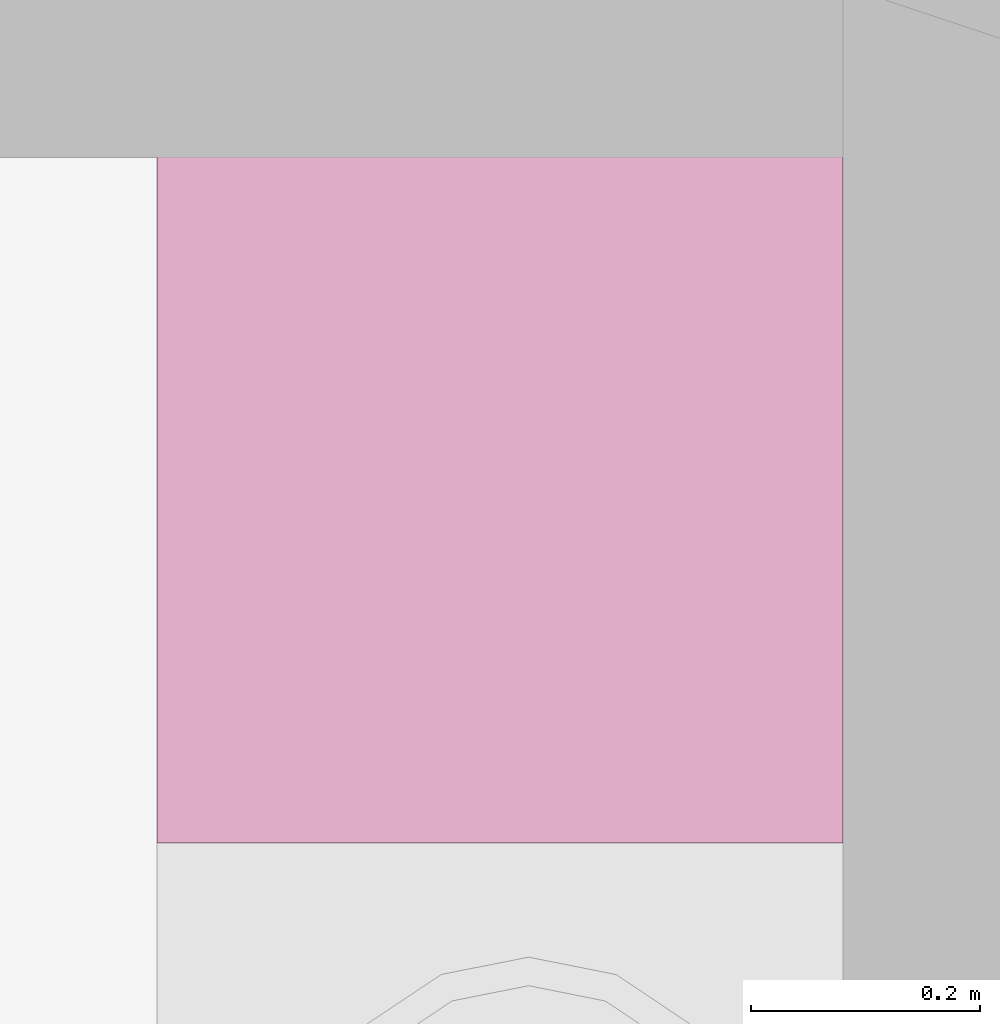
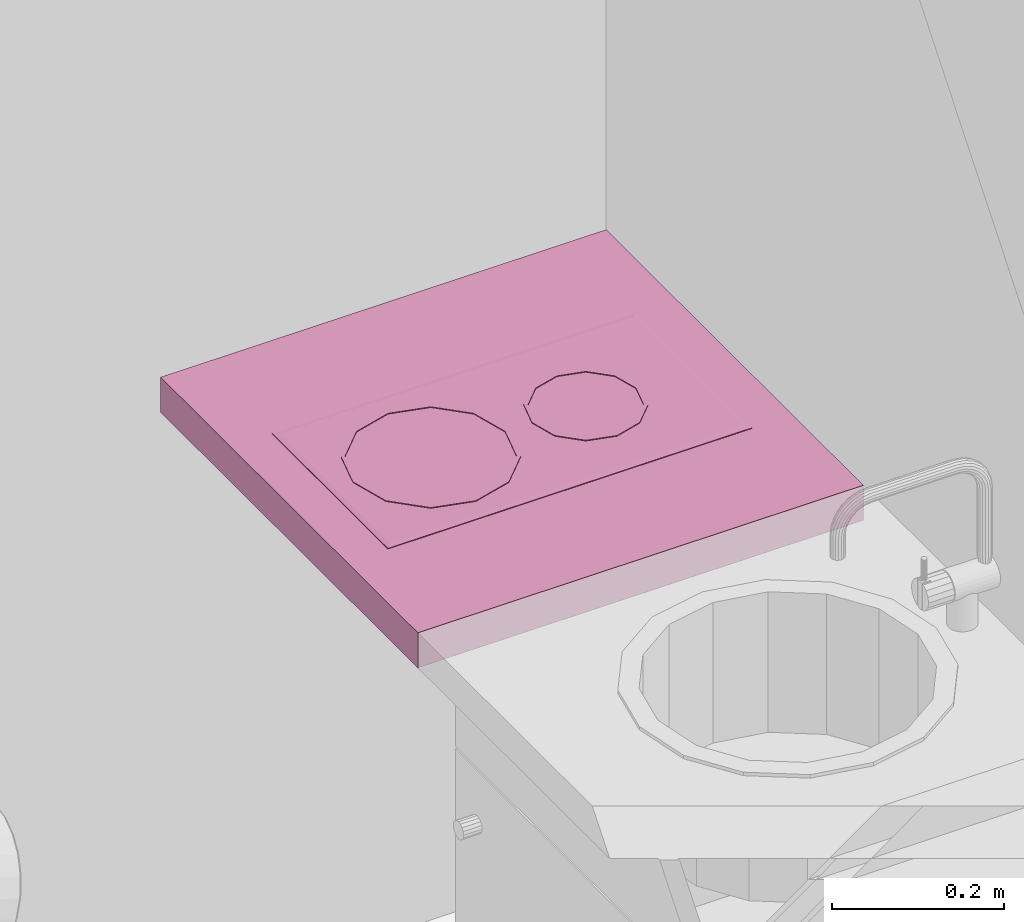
# One storey, part 165 of 172: 1 furnishing.
"""IFC2X3 building model written with IfcOpenShell, lengths in millimetres."""

from ifc_helpers import new_model, entity, si_unit, converted_unit, money_unit, direction, frame, origin_with_axes, place, context, subcontext, project, spatial, faceted_brep, source, transform, mapped, material, material_list, type_object, element, save


model = new_model("IFC2X3")

# Units and contexts
model_context = context("Model", 3, precision=1e-05, world=origin_with_axes(), true_north=direction((0.0, 1.0)))
body_context = subcontext(model_context, "Body", "Model", "MODEL_VIEW")
ifc_project = project(units=[si_unit("LENGTHUNIT", "METRE", prefix="MILLI"), si_unit("AREAUNIT", "SQUARE_METRE"), si_unit("VOLUMEUNIT", "CUBIC_METRE"), converted_unit("PLANEANGLEUNIT", "DEGREE", entity("IfcPlaneAngleMeasure", 0.0174532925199), si_unit("PLANEANGLEUNIT", "RADIAN"), dimensions=[0, 0, 0, 0, 0, 0, 0]), si_unit("SOLIDANGLEUNIT", "STERADIAN"), money_unit("USD"), converted_unit("TIMEUNIT", "Year", entity("IfcTimeMeasure", 31556926.0), si_unit("TIMEUNIT", "SECOND"), dimensions=[0, 0, 0, 0, 0, 0, 0]), si_unit("MASSUNIT", "GRAM"), si_unit("THERMODYNAMICTEMPERATUREUNIT", "DEGREE_CELSIUS"), si_unit("LUMINOUSINTENSITYUNIT", "LUMEN")], contexts=[model_context])

# Site, building, storey
site_placement = place(None, origin_with_axes())
site = spatial("IfcSite", under=ifc_project, at=site_placement, Name="Site", CompositionType="ELEMENT")
building_placement = place(site_placement, origin_with_axes())
building = spatial("IfcBuilding", under=site, at=building_placement, Name="Building", CompositionType="ELEMENT")
storey_placement = place(building_placement, frame((0.0, 0.0, 3200.0), z_axis=(0.0, 0.0, 1.0), x_axis=(1.0, 0.0, 0.0)))
storey = spatial("IfcBuildingStorey", under=building, at=storey_placement, Name="3KORRUS", CompositionType="ELEMENT", Elevation=3200.0)

# Furnishing
ifc_material = material(Name="Background")
ifc_material_list = material_list([ifc_material])
furnishing_element_type = type_object("IfcFurnishingElementType", Name="Built-in Cooktops 19")
shared_shape = source(origin_with_axes(), body_context, "Body", "Brep", [
    faceted_brep([(0.0, 0.0, 850.0), (600.0, 0.0, 850.0), (600.0, 0.0, 900.0), (0.0, 0.0, 900.0), (0.0, 600.0, 850.0), (600.0, 600.0, 850.0), (600.0, 600.0, 900.0), (0.0, 600.0, 900.0)], [[[0, 1, 2, 3]], [[0, 4, 5, 1]], [[1, 5, 6, 2]], [[3, 2, 6, 7]], [[4, 0, 3, 7]], [[5, 4, 7, 6]]]),
    faceted_brep([(165.0, 55.0, 900.0), (165.0, 545.0, 900.0), (435.0, 545.0, 900.0), (435.0, 55.0, 900.0), (165.0, 55.0, 900.8), (165.0, 545.0, 900.8), (435.0, 545.0, 900.8), (435.0, 55.0, 900.8), (171.806, 61.806, 902.0), (171.806, 538.194, 902.0), (428.194, 538.194, 902.0), (428.194, 61.806, 902.0)], [[[0, 1, 2, 3]], [[1, 0, 4, 5]], [[2, 1, 5, 6]], [[3, 2, 6, 7]], [[0, 3, 7, 4]], [[5, 4, 8, 9]], [[6, 5, 9, 10]], [[7, 6, 10, 11]], [[4, 7, 11, 8]], [[10, 9, 8, 11]]]),
    faceted_brep([(195.0, 409.27, 902.0), (209.067, 356.77, 902.0), (209.067, 356.77, 903.0), (195.0, 409.27, 903.0), (209.067, 461.77, 902.0), (247.5, 500.203, 902.0), (300.0, 514.27, 902.0), (352.5, 500.203, 902.0), (390.933, 461.77, 902.0), (405.0, 409.27, 902.0), (390.933, 356.77, 902.0), (352.5, 318.337, 902.0), (300.0, 304.27, 902.0), (247.5, 318.337, 902.0), (200.0, 409.27, 902.0), (213.397, 359.27, 902.0), (250.0, 322.667, 902.0), (300.0, 309.27, 902.0), (350.0, 322.667, 902.0), (386.603, 359.27, 902.0), (400.0, 409.27, 902.0), (386.603, 459.27, 902.0), (350.0, 495.873, 902.0), (300.0, 509.27, 902.0), (250.0, 495.873, 902.0), (213.397, 459.27, 902.0), (247.5, 318.337, 903.0), (300.0, 304.27, 903.0), (352.5, 318.337, 903.0), (390.933, 356.77, 903.0), (405.0, 409.27, 903.0), (390.933, 461.77, 903.0), (352.5, 500.203, 903.0), (300.0, 514.27, 903.0), (247.5, 500.203, 903.0), (209.067, 461.77, 903.0), (200.0, 409.27, 903.0), (213.397, 459.27, 903.0), (250.0, 495.873, 903.0), (300.0, 509.27, 903.0), (350.0, 495.873, 903.0), (386.603, 459.27, 903.0), (400.0, 409.27, 903.0), (386.603, 359.27, 903.0), (350.0, 322.667, 903.0), (300.0, 309.27, 903.0), (250.0, 322.667, 903.0), (213.397, 359.27, 903.0)], [[[0, 1, 2, 3]], [[0, 4, 5, 6, 7, 8, 9, 10, 11, 12, 13, 1], [14, 15, 16, 17, 18, 19, 20, 21, 22, 23, 24, 25]], [[1, 13, 26, 2]], [[3, 2, 26, 27, 28, 29, 30, 31, 32, 33, 34, 35], [36, 37, 38, 39, 40, 41, 42, 43, 44, 45, 46, 47]], [[4, 0, 3, 35]], [[5, 4, 35, 34]], [[6, 5, 34, 33]], [[7, 6, 33, 32]], [[8, 7, 32, 31]], [[9, 8, 31, 30]], [[10, 9, 30, 29]], [[11, 10, 29, 28]], [[12, 11, 28, 27]], [[13, 12, 27, 26]], [[15, 14, 36, 47]], [[16, 15, 47, 46]], [[17, 16, 46, 45]], [[18, 17, 45, 44]], [[19, 18, 44, 43]], [[20, 19, 43, 42]], [[21, 20, 42, 41]], [[22, 21, 41, 40]], [[23, 22, 40, 39]], [[24, 23, 39, 38]], [[25, 24, 38, 37]], [[14, 25, 37, 36]]]),
    faceted_brep([(227.5, 200.53, 902.0), (237.213, 164.28, 902.0), (237.213, 164.28, 903.0), (227.5, 200.53, 903.0), (237.213, 236.78, 902.0), (263.75, 263.317, 902.0), (300.0, 273.03, 902.0), (336.25, 263.317, 902.0), (362.787, 236.78, 902.0), (372.5, 200.53, 902.0), (362.787, 164.28, 902.0), (336.25, 137.743, 902.0), (300.0, 128.03, 902.0), (263.75, 137.743, 902.0), (232.5, 200.53, 902.0), (241.543, 166.78, 902.0), (266.25, 142.073, 902.0), (300.0, 133.03, 902.0), (333.75, 142.073, 902.0), (358.457, 166.78, 902.0), (367.5, 200.53, 902.0), (358.457, 234.28, 902.0), (333.75, 258.987, 902.0), (300.0, 268.03, 902.0), (266.25, 258.987, 902.0), (241.543, 234.28, 902.0), (263.75, 137.743, 903.0), (300.0, 128.03, 903.0), (336.25, 137.743, 903.0), (362.787, 164.28, 903.0), (372.5, 200.53, 903.0), (362.787, 236.78, 903.0), (336.25, 263.317, 903.0), (300.0, 273.03, 903.0), (263.75, 263.317, 903.0), (237.213, 236.78, 903.0), (232.5, 200.53, 903.0), (241.543, 234.28, 903.0), (266.25, 258.987, 903.0), (300.0, 268.03, 903.0), (333.75, 258.987, 903.0), (358.457, 234.28, 903.0), (367.5, 200.53, 903.0), (358.457, 166.78, 903.0), (333.75, 142.073, 903.0), (300.0, 133.03, 903.0), (266.25, 142.073, 903.0), (241.543, 166.78, 903.0)], [[[0, 1, 2, 3]], [[0, 4, 5, 6, 7, 8, 9, 10, 11, 12, 13, 1], [14, 15, 16, 17, 18, 19, 20, 21, 22, 23, 24, 25]], [[1, 13, 26, 2]], [[3, 2, 26, 27, 28, 29, 30, 31, 32, 33, 34, 35], [36, 37, 38, 39, 40, 41, 42, 43, 44, 45, 46, 47]], [[4, 0, 3, 35]], [[5, 4, 35, 34]], [[6, 5, 34, 33]], [[7, 6, 33, 32]], [[8, 7, 32, 31]], [[9, 8, 31, 30]], [[10, 9, 30, 29]], [[11, 10, 29, 28]], [[12, 11, 28, 27]], [[13, 12, 27, 26]], [[15, 14, 36, 47]], [[16, 15, 47, 46]], [[17, 16, 46, 45]], [[18, 17, 45, 44]], [[19, 18, 44, 43]], [[20, 19, 43, 42]], [[21, 20, 42, 41]], [[22, 21, 41, 40]], [[23, 22, 40, 39]], [[24, 23, 39, 38]], [[25, 24, 38, 37]], [[14, 25, 37, 36]]]),
])
furnishing_placement = place(storey_placement, frame((5709.70329669, -13789.2398994, 0.0), z_axis=(0.0, 0.0, 1.0), x_axis=(0.0, 1.0, 0.0)))
element("IfcFurnishingElement", 1, at=furnishing_placement, inside=storey, type_object=furnishing_element_type, material=ifc_material_list, Name="FU - 007", context=body_context, shape_type="MappedRepresentation", body=[
    mapped(shared_shape, transform((0.0, 0.0, 0.0))),
])

save(model, "model.ifc")
